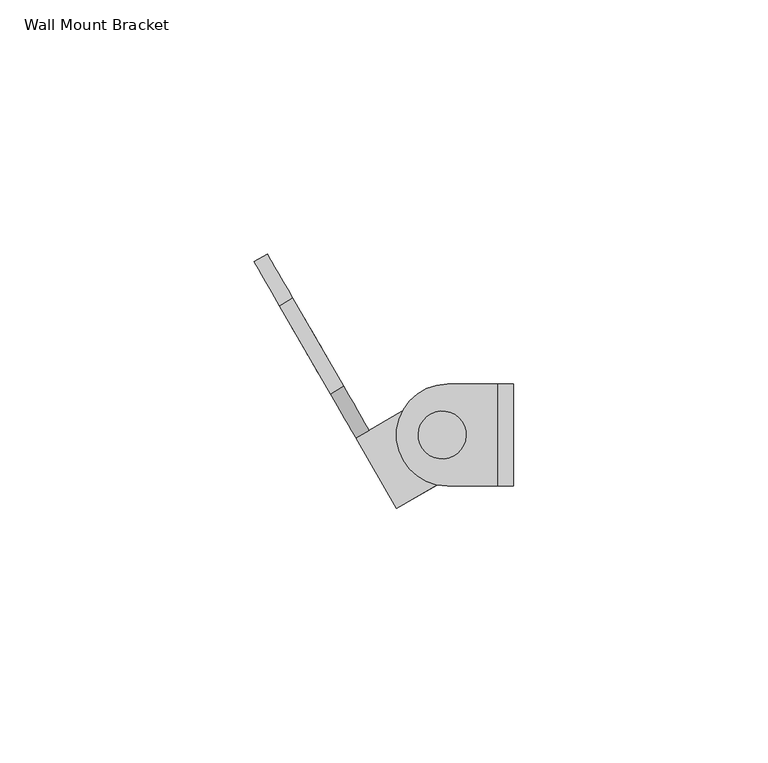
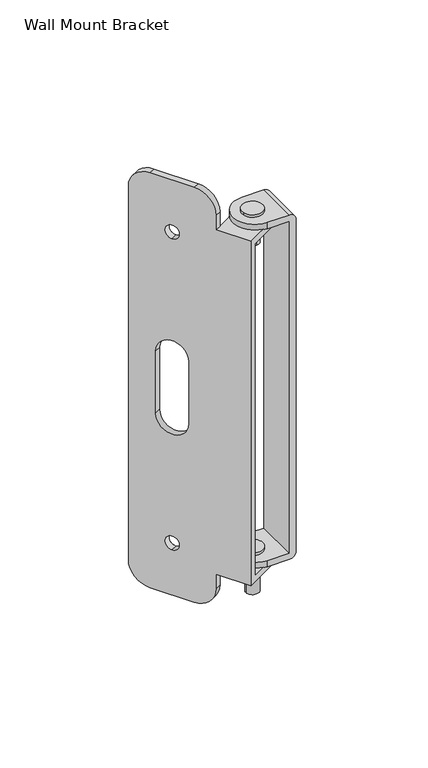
"""IFC4 building model written with IfcOpenShell, lengths in millimetres: proxy geometry, d&b xC-Series Wall Mount Bracket : Wall Mount Bracket."""

from ifc_helpers import new_model, si_unit, point, frame, origin, origin_2d, place, context, project, spatial, polyline, circle_curve, trimmed, segment, composite_curve, outline, extrude, source, transform, mapped, element, save
from ifc_brep_helpers import plane_surface, cylinder_surface, revolved_surface, advanced_brep


def wall_mount_bracket_2680d181(model_context):
    return source(origin(), model_context, "Body", "SolidModel", [
        advanced_brep(
        [(-31.9903811, 25.4089653, 100.0), (-36.9903811, 34.0692194, 90.0), (-36.9903811, 34.0692194, -90.0), (-31.9903811, 25.4089653, -100.0), (-21.9903811, 8.0884573, -100.0), (-16.9903811, -0.5717968, -90.0), (-16.9903811, -0.5717968, -83.0), (-8.9903811, -14.4282032, -83.0), (-8.9903811, -14.4282032, 83.0), (-16.9903811, -0.5717968, 83.0), (-16.9903811, -0.5717968, 90.0), (-21.9903811, 8.0884573, 100.0), (-30.7403811, 23.2439018, -15.0), (-30.7403811, 23.2439018, 15.0), (-23.2403811, 10.2535208, 15.0), (-23.2403811, 10.2535208, -15.0), (-26.9903811, 16.7487113, 71.75), (-26.9903811, 16.7487113, 78.25), (-26.9903811, 16.7487113, -78.25), (-26.9903811, 16.7487113, -71.75), (-29.3923048, 26.9089653, 100.0), (-19.3923048, 9.5884573, 100.0), (-14.3923048, 0.9282032, 90.0), (-14.3923048, 0.9282032, 83.0), (-14.3923048, 0.9282032, 80.0), (-6.3923048, -12.9282032, 80.0), (-6.3923048, -12.9282032, -79.9), (-14.3923048, 0.9282032, -80.0), (-14.3923048, 0.9282032, -83.0), (-14.3923048, 0.9282032, -90.0), (-19.3923048, 9.5884573, -100.0), (-29.3923048, 26.9089653, -100.0), (-34.3923048, 35.5692194, -90.0), (-34.3923048, 35.5692194, 90.0), (-28.1423048, 24.7439018, -15.0), (-20.6423048, 11.7535208, -15.0), (-20.6423048, 11.7535208, 15.0), (-28.1423048, 24.7439018, 15.0), (-24.3923048, 18.2487113, 71.75), (-24.3923048, 18.2487113, 78.25), (-24.3923048, 18.2487113, -78.25), (-24.3923048, 18.2487113, -71.75), (5.7320508, -5.9282032, 80.0), (5.7320508, -5.9282032, 83.0), (5.7320508, -5.9282032, -83.0), (5.7320508, -5.9282032, -80.0), (-2.2679492, 7.9282032, 83.0), (7.9282032, 2.2679492, 83.0), (5.9282032, 5.7320508, 83.0), (-2.2679492, 7.9282032, 80.0), (5.9282032, 5.7320508, 80.0), (7.9282032, 2.2679492, 80.0), (-2.2679492, 7.9282032, -80.0), (7.9282032, 2.2679492, -80.0), (5.9282032, 5.7320508, -80.0), (-2.2679492, 7.9282032, -83.0), (5.9282032, 5.7320508, -83.0), (7.9282032, 2.2679492, -83.0)],
        [
            (0, 1, circle_curve(frame((-31.9903811, 25.4089653, 90.0), z_axis=(-0.8660254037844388, -0.4999999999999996, 0.0), x_axis=(0.0, 0.0, 1.0)), 10.0)),
            (1, 2),
            (2, 3, circle_curve(frame((-31.9903811, 25.4089653, -90.0), z_axis=(-0.8660254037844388, -0.4999999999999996, 0.0), x_axis=(0.0, 0.0, 1.0)), 10.0)),
            (3, 4),
            (4, 5, circle_curve(frame((-21.9903811, 8.0884573, -90.0), z_axis=(-0.8660254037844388, -0.4999999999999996, 0.0), x_axis=(0.0, 0.0, 1.0)), 10.0)),
            (5, 6),
            (6, 7),
            (7, 8),
            (8, 9),
            (9, 10),
            (10, 11, circle_curve(frame((-21.9903811, 8.0884573, 90.0), z_axis=(-0.8660254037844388, -0.4999999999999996, 0.0), x_axis=(0.0, 0.0, 1.0)), 10.0)),
            (11, 0),
            (12, 13),
            (13, 14, circle_curve(frame((-26.9903811, 16.7487113, 15.0), z_axis=(0.8660254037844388, 0.4999999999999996, 0.0), x_axis=(0.0, 0.0, 1.0)), 7.5)),
            (14, 15),
            (15, 12, circle_curve(frame((-26.9903811, 16.7487113, -15.0), z_axis=(0.8660254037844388, 0.4999999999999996, 0.0), x_axis=(0.0, 0.0, 1.0)), 7.5)),
            (16, 17, circle_curve(frame((-26.9903811, 16.7487113, 75.0), z_axis=(0.8660254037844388, 0.4999999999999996, 0.0), x_axis=(0.0, 0.0, 1.0)), 3.25)),
            (17, 16, circle_curve(frame((-26.9903811, 16.7487113, 75.0), z_axis=(0.8660254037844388, 0.4999999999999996, 0.0), x_axis=(0.0, 0.0, 1.0)), 3.25)),
            (18, 19, circle_curve(frame((-26.9903811, 16.7487113, -75.0), z_axis=(0.8660254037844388, 0.4999999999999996, 0.0), x_axis=(0.0, 0.0, 1.0)), 3.25)),
            (19, 18, circle_curve(frame((-26.9903811, 16.7487113, -75.0), z_axis=(0.8660254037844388, 0.4999999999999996, 0.0), x_axis=(0.0, 0.0, 1.0)), 3.25)),
            (20, 21),
            (21, 22, circle_curve(frame((-19.3923048, 9.5884573, 90.0), z_axis=(0.8660254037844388, 0.4999999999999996, 0.0), x_axis=(0.0, 0.0, 1.0)), 10.0)),
            (22, 23),
            (23, 24),
            (24, 25),
            (25, 26),
            (26, 27),
            (27, 28),
            (28, 29),
            (29, 30, circle_curve(frame((-19.3923048, 9.5884573, -90.0), z_axis=(0.8660254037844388, 0.4999999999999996, 0.0), x_axis=(0.0, 0.0, 1.0)), 10.0)),
            (30, 31),
            (31, 32, circle_curve(frame((-29.3923048, 26.9089653, -90.0), z_axis=(0.8660254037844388, 0.4999999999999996, 0.0), x_axis=(0.0, 0.0, 1.0)), 10.0)),
            (32, 33),
            (33, 20, circle_curve(frame((-29.3923048, 26.9089653, 90.0), z_axis=(0.8660254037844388, 0.4999999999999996, 0.0), x_axis=(0.0, 0.0, 1.0)), 10.0)),
            (34, 35, circle_curve(frame((-24.3923048, 18.2487113, -15.0), z_axis=(-0.8660254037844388, -0.4999999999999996, 0.0), x_axis=(0.0, 0.0, 1.0)), 7.5)),
            (35, 36),
            (36, 37, circle_curve(frame((-24.3923048, 18.2487113, 15.0), z_axis=(-0.8660254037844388, -0.4999999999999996, 0.0), x_axis=(0.0, 0.0, 1.0)), 7.5)),
            (37, 34),
            (38, 39, circle_curve(frame((-24.3923048, 18.2487113, 75.0), z_axis=(-0.8660254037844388, -0.4999999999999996, 0.0), x_axis=(0.0, 0.0, 1.0)), 3.25)),
            (39, 38, circle_curve(frame((-24.3923048, 18.2487113, 75.0), z_axis=(-0.8660254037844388, -0.4999999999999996, 0.0), x_axis=(0.0, 0.0, 1.0)), 3.25)),
            (40, 41, circle_curve(frame((-24.3923048, 18.2487113, -75.0), z_axis=(-0.8660254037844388, -0.4999999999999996, 0.0), x_axis=(0.0, 0.0, 1.0)), 3.25)),
            (41, 40, circle_curve(frame((-24.3923048, 18.2487113, -75.0), z_axis=(-0.8660254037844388, -0.4999999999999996, 0.0), x_axis=(0.0, 0.0, 1.0)), 3.25)),
            (11, 21),
            (20, 0),
            (10, 22),
            (9, 23),
            (25, 42),
            (42, 43),
            (43, 8),
            (7, 44),
            (44, 45),
            (45, 26),
            (28, 6),
            (5, 29),
            (4, 30),
            (3, 31),
            (2, 32),
            (1, 33),
            (15, 35),
            (34, 12),
            (14, 36),
            (13, 37),
            (46, 23),
            (43, 47, circle_curve(frame((2.7320508, -0.7320508, 83.0), z_axis=(0.0, 0.0, 1.0), x_axis=(-0.8660254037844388, -0.4999999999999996, 0.0)), 6.0)),
            (47, 48),
            (48, 46, circle_curve(frame((0.7320508, 2.7320508, 83.0), z_axis=(0.0, 0.0, 1.0), x_axis=(-0.8660254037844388, -0.4999999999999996, 0.0)), 6.0)),
            (24, 49),
            (49, 50, circle_curve(frame((0.7320508, 2.7320508, 80.0), z_axis=(0.0, 0.0, -1.0), x_axis=(-0.8660254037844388, -0.4999999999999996, 0.0)), 6.0)),
            (50, 51),
            (51, 42, circle_curve(frame((2.7320508, -0.7320508, 80.0), z_axis=(0.0, 0.0, -1.0), x_axis=(-0.8660254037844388, -0.4999999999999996, 0.0)), 6.0)),
            (48, 50),
            (49, 46),
            (47, 51),
            (52, 27),
            (45, 53, circle_curve(frame((2.7320508, -0.7320508, -80.0), z_axis=(0.0, 0.0, 1.0), x_axis=(-0.8660254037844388, -0.4999999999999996, 0.0)), 6.0)),
            (53, 54),
            (54, 52, circle_curve(frame((0.7320508, 2.7320508, -80.0), z_axis=(0.0, 0.0, 1.0), x_axis=(-0.8660254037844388, -0.4999999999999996, 0.0)), 6.0)),
            (28, 55),
            (55, 56, circle_curve(frame((0.7320508, 2.7320508, -83.0), z_axis=(0.0, 0.0, -1.0), x_axis=(-0.8660254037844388, -0.4999999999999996, 0.0)), 6.0)),
            (56, 57),
            (57, 44, circle_curve(frame((2.7320508, -0.7320508, -83.0), z_axis=(0.0, 0.0, -1.0), x_axis=(-0.8660254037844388, -0.4999999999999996, 0.0)), 6.0)),
            (54, 56),
            (55, 52),
            (53, 57),
            (17, 39),
            (38, 16),
            (19, 41),
            (40, 18),
        ],
        [
            plane_surface(frame((-21.9903811, 8.0884573, 100.0), z_axis=(-0.8660254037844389, -0.4999999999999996, 0.0), x_axis=(0.4999999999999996, -0.8660254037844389, 0.0))),
            plane_surface(frame((-19.3923048, 9.5884573, 100.0), z_axis=(0.8660254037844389, 0.4999999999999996, 0.0), x_axis=(-0.4999999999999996, 0.8660254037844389, 0.0))),
            plane_surface(frame((-31.9903811, 25.4089653, 100.0), z_axis=(0.0, 0.0, 1.0), x_axis=(0.8660254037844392, 0.49999999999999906, 0.0))),
            cylinder_surface(frame((-19.3923048, 9.5884573, 90.0), z_axis=(-0.8660254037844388, -0.4999999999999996, 0.0), x_axis=(0.0, 0.0, 1.0)), 10.0),
            plane_surface(frame((-16.9903811, -0.5717968, 90.0), z_axis=(0.49999999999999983, -0.8660254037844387, 0.0), x_axis=(0.8660254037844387, 0.49999999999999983, 0.0))),
            plane_surface(frame((-8.9903811, -14.4282032, 80.0), z_axis=(0.5000000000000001, -0.8660254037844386, 0.0), x_axis=(0.8660254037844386, 0.5000000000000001, 0.0))),
            plane_surface(frame((-16.9903811, -0.5717968, -79.9), z_axis=(0.4999999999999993, -0.8660254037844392, 0.0), x_axis=(0.8660254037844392, 0.4999999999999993, 0.0))),
            cylinder_surface(frame((-19.3923048, 9.5884573, -90.0), z_axis=(-0.8660254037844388, -0.4999999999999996, 0.0), x_axis=(0.0, 0.0, 1.0)), 10.0),
            plane_surface(frame((-21.9903811, 8.0884573, -100.0), z_axis=(0.0, 0.0, -1.0), x_axis=(0.8660254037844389, 0.4999999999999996, 0.0))),
            cylinder_surface(frame((-29.3923048, 26.9089653, -90.0), z_axis=(-0.8660254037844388, -0.4999999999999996, 0.0), x_axis=(0.0, 0.0, 1.0)), 10.0),
            plane_surface(frame((-36.9903811, 34.0692194, -90.0), z_axis=(-0.49999999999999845, 0.8660254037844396, 0.0), x_axis=(0.8660254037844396, 0.49999999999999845, 0.0))),
            cylinder_surface(frame((-29.3923048, 26.9089653, 90.0), z_axis=(-0.8660254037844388, -0.4999999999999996, 0.0), x_axis=(0.0, 0.0, 1.0)), 10.0),
            revolved_surface(polyline([(-24.392304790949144, 18.248711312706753, -7.5), (-26.990381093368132, 16.748711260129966, -7.5)]), (-44.3108891, 6.7487113, -15.0), (0.8660254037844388, 0.4999999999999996, 0.0)),
            plane_surface(frame((-23.2403811, 10.2535208, -15.0), z_axis=(-0.5000000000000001, 0.8660254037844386, 0.0), x_axis=(0.8660254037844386, 0.5000000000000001, 0.0))),
            revolved_surface(polyline([(-24.392304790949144, 18.248711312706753, 22.5), (-26.990381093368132, 16.748711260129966, 22.5)]), (-44.3108891, 6.7487113, 15.0), (0.8660254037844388, 0.4999999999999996, 0.0)),
            plane_surface(frame((-30.7403811, 23.2439018, 15.0), z_axis=(0.49999999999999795, -0.8660254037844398, 0.0), x_axis=(0.8660254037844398, 0.49999999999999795, 0.0))),
            plane_surface(frame((-4.4641016, -0.2679492, 83.0), z_axis=(0.0, 0.0, 1.0), x_axis=(-0.4999999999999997, 0.8660254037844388, 0.0))),
            plane_surface(frame((-4.4641016, -0.2679492, 80.0), z_axis=(0.0, 0.0, -1.0), x_axis=(0.4999999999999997, -0.8660254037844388, 0.0))),
            cylinder_surface(frame((0.7320508, 2.7320508, 80.0), z_axis=(0.0, 0.0, 1.0), x_axis=(-0.8660254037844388, -0.4999999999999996, 0.0)), 6.0),
            plane_surface(frame((5.9282032, 5.7320508, 83.0), z_axis=(0.8660254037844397, 0.49999999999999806, 0.0), x_axis=(0.0, 0.0, -1.0))),
            cylinder_surface(frame((2.7320508, -0.7320508, 80.0), z_axis=(0.0, 0.0, 1.0), x_axis=(-0.8660254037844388, -0.4999999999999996, 0.0)), 6.0),
            plane_surface(frame((-16.9903811, -0.5717968, 83.0), z_axis=(-0.4999999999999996, 0.8660254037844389, 0.0), x_axis=(0.0, 0.0, -1.0))),
            plane_surface(frame((-4.4641016, -0.2679492, -80.0), z_axis=(0.0, 0.0, 1.0), x_axis=(-0.4999999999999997, 0.8660254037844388, 0.0))),
            plane_surface(frame((-4.4641016, -0.2679492, -83.0), z_axis=(0.0, 0.0, -1.0), x_axis=(0.4999999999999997, -0.8660254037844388, 0.0))),
            cylinder_surface(frame((0.7320508, 2.7320508, -83.0), z_axis=(0.0, 0.0, 1.0), x_axis=(-0.8660254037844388, -0.4999999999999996, 0.0)), 6.0),
            plane_surface(frame((5.9282032, 5.7320508, -80.0), z_axis=(0.8660254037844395, 0.4999999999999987, 0.0), x_axis=(0.0, 0.0, -1.0))),
            cylinder_surface(frame((2.7320508, -0.7320508, -83.0), z_axis=(0.0, 0.0, 1.0), x_axis=(-0.8660254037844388, -0.4999999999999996, 0.0)), 6.0),
            plane_surface(frame((-16.9903811, -0.5717968, -80.0), z_axis=(-0.49999999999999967, 0.8660254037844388, 0.0), x_axis=(0.0, 0.0, -1.0))),
            revolved_surface(polyline([(-24.392304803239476, 18.24871130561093, 78.25), (-26.990381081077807, 16.74871126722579, 78.25)]), (-44.3108891, 6.7487113, 75.0), (0.8660254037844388, 0.4999999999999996, 0.0)),
            revolved_surface(polyline([(-24.392304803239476, 18.24871130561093, -71.75), (-26.990381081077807, 16.74871126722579, -71.75)]), (-44.3108891, 6.7487113, -75.0), (0.8660254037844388, 0.4999999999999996, 0.0)),
        ],
        [
            (0, [[1, 2, 3, 4, 5, 6, 7, 8, 9, 10, 11, 12], [13, 14, 15, 16], [17, 18], [19, 20]]),
            (1, [[21, 22, 23, 24, 25, 26, 27, 28, 29, 30, 31, 32, 33, 34], [35, 36, 37, 38], [39, 40], [41, 42]]),
            (2, [[43, -21, 44, -12]]),
            (3, [[45, -22, -43, -11]]),
            (4, [[-10, 46, -23, -45]]),
            (5, [[47, 48, 49, -8, 50, 51, 52, -26]]),
            (6, [[-29, 53, -6, 54]]),
            (7, [[55, -30, -54, -5]]),
            (8, [[56, -31, -55, -4]]),
            (9, [[57, -32, -56, -3]]),
            (10, [[58, -33, -57, -2]]),
            (11, [[-44, -34, -58, -1]]),
            (12, [[59, -35, 60, -16]]),
            (13, [[61, -36, -59, -15]]),
            (14, [[62, -37, -61, -14]]),
            (15, [[-60, -38, -62, -13]]),
            (16, [[63, -46, -9, -49, 64, 65, 66]]),
            (17, [[-47, -25, 67, 68, 69, 70]]),
            (18, [[71, -68, 72, -66]]),
            (19, [[73, -69, -71, -65]]),
            (20, [[-48, -70, -73, -64]]),
            (21, [[-67, -24, -63, -72]]),
            (22, [[74, -27, -52, 75, 76, 77]]),
            (23, [[-53, 78, 79, 80, 81, -50, -7]]),
            (24, [[82, -79, 83, -77]]),
            (25, [[84, -80, -82, -76]]),
            (26, [[-51, -81, -84, -75]]),
            (27, [[-78, -28, -74, -83]]),
            (28, [[85, -39, 86, -18]]),
            (28, [[-86, -40, -85, -17]]),
            (29, [[87, -41, 88, -20]]),
            (29, [[-88, -42, -87, -19]]),
        ],
    ),
        extrude(outline(composite_curve([segment(trimmed(circle_curve(origin_2d(), 4.7), [point((-4.6285964, -0.8161464))], [point((4.6285964, 0.8161464))], False, "CARTESIAN"), True, "CONTINUOUS"), segment(trimmed(circle_curve(origin_2d(), 4.7), [point((4.6285964, 0.8161464))], [point((-4.6285964, -0.8161464))], False, "CARTESIAN"), True, "CONTINUOUS")], self_intersect=False)), frame((0.0, 0.0, 86.0), z_axis=(0.0, 0.0, 1.0), x_axis=(1.0, 0.0, 0.0)), (0.0, 0.0, 1.0), 1.27),
        extrude(outline(composite_curve([segment(trimmed(circle_curve(origin_2d(), 4.7), [point((-4.7, 0.0))], [point((4.7, 0.0))], False, "CARTESIAN"), True, "CONTINUOUS"), segment(trimmed(circle_curve(origin_2d(), 4.7), [point((4.7, 0.0))], [point((-4.7, 0.0))], False, "CARTESIAN"), True, "CONTINUOUS")], self_intersect=False)), frame((0.0, 0.0, -77.0), z_axis=(0.0, 0.0, 1.0), x_axis=(1.0, 0.0, 0.0)), (0.0, 0.0, 1.0), 1.27),
        extrude(outline(composite_curve([segment(trimmed(circle_curve(origin_2d(), 3.0338653), [point((0.0, -3.0338653))], [point((0.0, 3.0338653))], False, "CARTESIAN"), True, "CONTINUOUS"), segment(trimmed(circle_curve(origin_2d(), 3.0338653), [point((0.0, 3.0338653))], [point((0.0, -3.0338653))], False, "CARTESIAN"), True, "CONTINUOUS")], self_intersect=False)), frame((0.0, 0.0, 71.0), z_axis=(0.0, 0.0, 1.0), x_axis=(1.0, 0.0, 0.0)), (0.0, 0.0, 1.0), 9.0),
        extrude(outline(composite_curve([segment(trimmed(circle_curve(origin_2d(), 3.0338653), [point((-3.0338653, 0.0))], [point((3.0338653, 0.0))], False, "CARTESIAN"), True, "CONTINUOUS"), segment(trimmed(circle_curve(origin_2d(), 3.0338653), [point((3.0338653, 0.0))], [point((-3.0338653, 0.0))], False, "CARTESIAN"), True, "CONTINUOUS")], self_intersect=False)), frame((0.0, 0.0, -97.0), z_axis=(0.0, 0.0, 1.0), x_axis=(1.0, 0.0, 0.0)), (0.0, 0.0, 1.0), 14.0),
        advanced_brep(
        [(1.0, 10.0, 83.0), (1.0, 10.0, 86.0), (11.0, 10.0, 86.0), (14.0, 10.0, 83.0), (14.0, 10.0, -77.0), (11.0, 10.0, -80.0), (1.0, 10.0, -80.0), (1.0, 10.0, -77.0), (11.0, 10.0, -77.0), (11.0, 10.0, 83.0), (1.0, -10.0, 86.0), (1.0, -10.0, 83.0), (11.0, -10.0, 83.0), (11.0, -10.0, -77.0), (1.0, -10.0, -77.0), (1.0, -10.0, -80.0), (11.0, -10.0, -80.0), (14.0, -10.0, -77.0), (14.0, -10.0, 83.0), (11.0, -10.0, 86.0)],
        [
            (0, 1),
            (1, 2),
            (2, 3, circle_curve(frame((11.0, 10.0, 83.0), z_axis=(0.0, 1.0, 0.0), x_axis=(1.0, 0.0, 0.0)), 3.0)),
            (3, 4),
            (4, 5, circle_curve(frame((11.0, 10.0, -77.0), z_axis=(0.0, 1.0, 0.0), x_axis=(1.0, 0.0, 0.0)), 3.0)),
            (5, 6),
            (6, 7),
            (7, 8),
            (8, 9),
            (9, 0),
            (10, 11),
            (11, 12),
            (12, 13),
            (13, 14),
            (14, 15),
            (15, 16),
            (16, 17, circle_curve(frame((11.0, -10.0, -77.0), z_axis=(0.0, -1.0, 0.0), x_axis=(1.0, 0.0, 0.0)), 3.0)),
            (17, 18),
            (18, 19, circle_curve(frame((11.0, -10.0, 83.0), z_axis=(0.0, -1.0, 0.0), x_axis=(1.0, 0.0, 0.0)), 3.0)),
            (19, 10),
            (9, 12),
            (11, 0, circle_curve(frame((1.0, 0.0, 83.0), z_axis=(0.0, 0.0, -1.0), x_axis=(1.0, 0.0, 0.0)), 10.0)),
            (8, 13),
            (7, 14, circle_curve(frame((1.0, 0.0, -77.0), z_axis=(0.0, 0.0, 1.0), x_axis=(1.0, 0.0, 0.0)), 10.0)),
            (5, 16),
            (15, 6, circle_curve(frame((1.0, 0.0, -80.0), z_axis=(0.0, 0.0, -1.0), x_axis=(1.0, 0.0, 0.0)), 10.0)),
            (4, 17),
            (3, 18),
            (2, 19),
            (1, 10, circle_curve(frame((1.0, 0.0, 86.0), z_axis=(0.0, 0.0, 1.0), x_axis=(1.0, 0.0, 0.0)), 10.0)),
        ],
        [
            plane_surface(frame((1.0, 10.0, 83.0), z_axis=(0.0, 1.0, 0.0), x_axis=(1.0, 0.0, 0.0))),
            plane_surface(frame((1.0, -10.0, 83.0), z_axis=(0.0, -1.0, 0.0), x_axis=(-1.0, 0.0, 0.0))),
            plane_surface(frame((1.0, 10.0, 83.0), z_axis=(0.0, 0.0, -1.0), x_axis=(0.0, -1.0, 0.0))),
            plane_surface(frame((11.0, 10.0, 83.0), z_axis=(-1.0, 0.0, 0.0), x_axis=(0.0, -1.0, 0.0))),
            plane_surface(frame((11.0, 10.0, -77.0), z_axis=(0.0, 0.0, 1.0), x_axis=(0.0, -1.0, 0.0))),
            plane_surface(frame((1.0, 10.0, -80.0), z_axis=(0.0, 0.0, -1.0), x_axis=(0.0, -1.0, 0.0))),
            cylinder_surface(frame((11.0, -10.0, -77.0), z_axis=(0.0, 1.0, 0.0), x_axis=(1.0, 0.0, 0.0)), 3.0),
            plane_surface(frame((14.0, 10.0, -77.0), z_axis=(1.0, 0.0, 0.0), x_axis=(0.0, -1.0, 0.0))),
            cylinder_surface(frame((11.0, -10.0, 83.0), z_axis=(0.0, 1.0, 0.0), x_axis=(1.0, 0.0, 0.0)), 3.0),
            plane_surface(frame((11.0, 10.0, 86.0), z_axis=(0.0, 0.0, 1.0), x_axis=(0.0, -1.0, 0.0))),
            cylinder_surface(frame((1.0, 0.0, 83.0), z_axis=(0.0, 0.0, 1.0), x_axis=(1.0, 0.0, 0.0)), 10.0),
            cylinder_surface(frame((1.0, 0.0, -80.0), z_axis=(0.0, 0.0, 1.0), x_axis=(1.0, 0.0, 0.0)), 10.0),
        ],
        [
            (0, [[1, 2, 3, 4, 5, 6, 7, 8, 9, 10]]),
            (1, [[11, 12, 13, 14, 15, 16, 17, 18, 19, 20]]),
            (2, [[21, -12, 22, -10]]),
            (3, [[23, -13, -21, -9]]),
            (4, [[24, -14, -23, -8]]),
            (5, [[25, -16, 26, -6]]),
            (6, [[27, -17, -25, -5]]),
            (7, [[28, -18, -27, -4]]),
            (8, [[29, -19, -28, -3]]),
            (9, [[30, -20, -29, -2]]),
            (10, [[-1, -22, -11, -30]]),
            (11, [[-7, -26, -15, -24]]),
        ],
    ),
    ])


if __name__ == "__main__":
    model = new_model("IFC4")
    model_context = context("Model", 3, world=origin())
    ifc_project = project(units=[si_unit("LENGTHUNIT", "METRE", prefix="MILLI")], contexts=[model_context])
    site = spatial("IfcSite", under=ifc_project)
    building = spatial("IfcBuilding", under=site)
    placement = place(None, origin())
    wall_mount_bracket_shape = wall_mount_bracket_2680d181(model_context)
    element("IfcBuildingElementProxy", 1, Name="d&b xC-Series Wall Mount Bracket : Wall Mount Bracket", ObjectType="d&b xC-Series Wall Mount Bracket : Wall Mount Bracket", at=placement, inside=building, context=model_context, shape_type="MappedRepresentation", body=[
        mapped(wall_mount_bracket_shape, transform((0.0, 0.0, 0.0), x_axis=(1.0, 0.0, 0.0), y_axis=(0.0, 1.0, 0.0), z_axis=(0.0, 0.0, 1.0))),
    ])
    save(model, "model.ifc")
